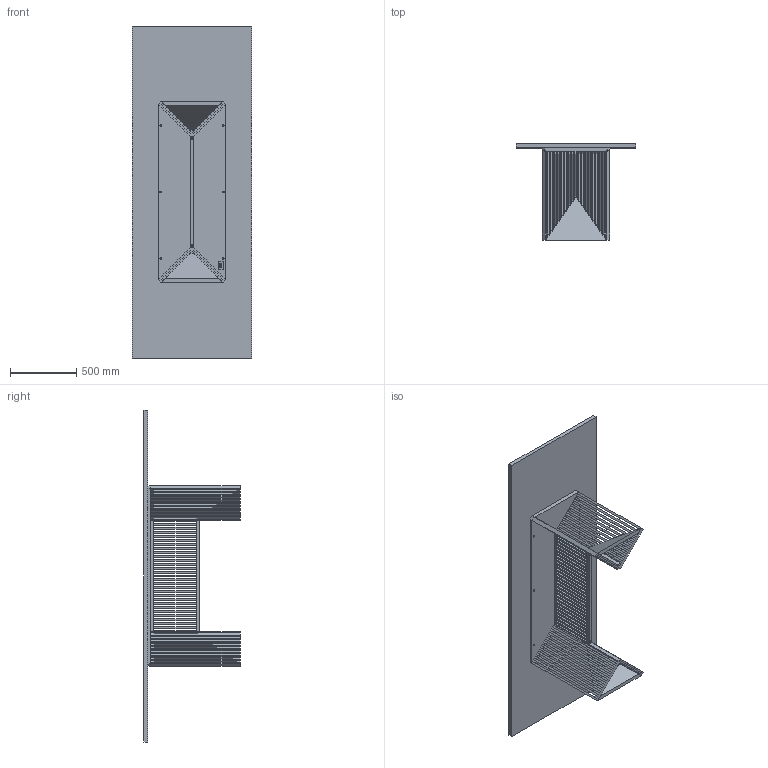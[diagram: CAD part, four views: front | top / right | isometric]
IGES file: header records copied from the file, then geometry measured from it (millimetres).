
Start section: SolidWorks IGES file using analytic representation for surfaces
Global section: file name: C:\Users\SoldaClaudio\Desktop\Maestro\004102.IGS; native system: SolidWorks 2019; preprocessor: SolidWorks 2019; author: SoldaClaudio; date: 201218.085125; units: millimetre
Bounding box: 900 x 725.14 x 2500 mm (x, y, z)
Surface area: 11429415.3 mm2 (no closed solid volume)
Topology: 0 solids, 0 shells, 1423 faces, 10064 edges, 10064 vertices
Faces by surface type: bspline 1223, revolution 200
